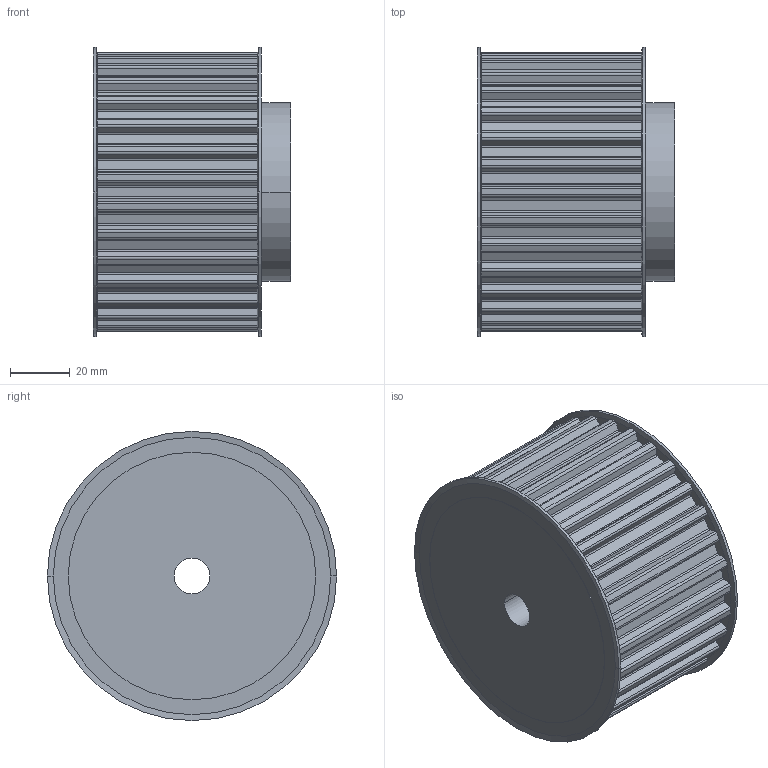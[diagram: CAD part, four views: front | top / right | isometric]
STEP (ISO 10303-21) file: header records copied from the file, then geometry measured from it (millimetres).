
FILE_DESCRIPTION( ( '' ), '1' );
FILE_NAME( 'C:/Users/Stangenbergd/Documents/CAD_Step/1/16453000.stp', '2021-10-19T09:01:42', ( '' ), ( '' ), ' ', ' ', ' ' );
FILE_SCHEMA( ( 'CONFIG_CONTROL_DESIGN' ) );
Length unit declared in the file: millimetre
Products named in the file (1): 1
Bounding box: 66.13 x 97 x 97 mm (x, y, z)
Volume: 377573.2 mm3; surface area: 44136.3 mm2
Topology: 1 solids, 1 shells, 385 faces, 1012 edges, 632 vertices
Faces by surface type: plane 215, cylinder 162, cone 8
Entity records: 12062 total; most frequent: DIRECTION 2356, CARTESIAN_POINT 2030, ORIENTED_EDGE 2024, EDGE_CURVE 1012, AXIS2_PLACEMENT_3D 958, VERTEX_POINT 632, CIRCLE 572, LINE 440
